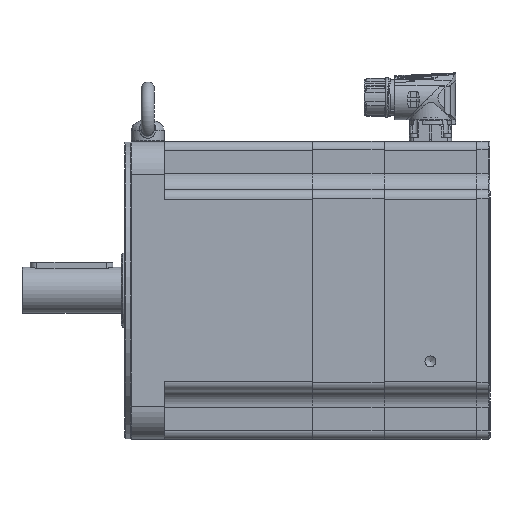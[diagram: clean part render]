
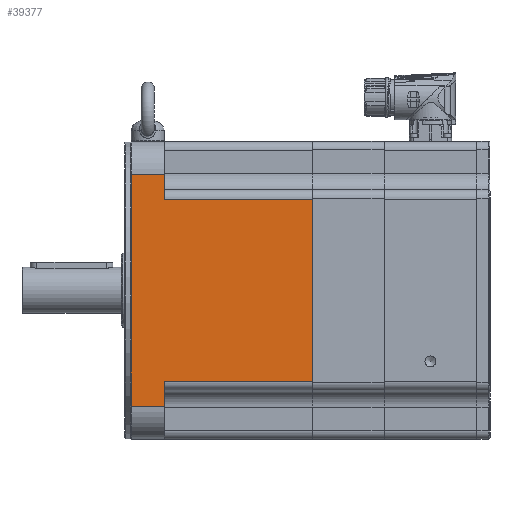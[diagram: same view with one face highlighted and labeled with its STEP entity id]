
A CAD part, left-side view. The second image highlights one B-rep face of the part: STEP entity #39377.
In plain terms, the highlighted planar face has unit normal (-1, 0, 0) as drawn and (1, 0, 0) by its records, which use the part's own axes.
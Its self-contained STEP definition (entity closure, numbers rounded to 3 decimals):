
#2944=PLANE('',#56737);
#13972=ORIENTED_EDGE('',*,*,#20682,.F.);
#13973=ORIENTED_EDGE('',*,*,#20750,.T.);
#13974=ORIENTED_EDGE('',*,*,#20718,.F.);
#13975=ORIENTED_EDGE('',*,*,#20751,.T.);
#13976=ORIENTED_EDGE('',*,*,#20752,.F.);
#13977=ORIENTED_EDGE('',*,*,#20753,.T.);
#13978=ORIENTED_EDGE('',*,*,#20738,.F.);
#13979=ORIENTED_EDGE('',*,*,#20754,.T.);
#20682=EDGE_CURVE('',#24970,#24971,#27868,.T.);
#20718=EDGE_CURVE('',#25006,#25007,#27882,.T.);
#20738=EDGE_CURVE('',#25026,#25027,#27889,.T.);
#20750=EDGE_CURVE('',#24970,#25007,#27897,.F.);
#20751=EDGE_CURVE('',#25006,#25034,#27898,.T.);
#20752=EDGE_CURVE('',#25035,#25034,#27899,.T.);
#20753=EDGE_CURVE('',#25035,#25027,#27900,.F.);
#20754=EDGE_CURVE('',#25026,#24971,#27901,.T.);
#24970=VERTEX_POINT('',#87859);
#24971=VERTEX_POINT('',#87861);
#25006=VERTEX_POINT('',#87939);
#25007=VERTEX_POINT('',#87941);
#25026=VERTEX_POINT('',#87986);
#25027=VERTEX_POINT('',#87987);
#25034=VERTEX_POINT('',#88011);
#25035=VERTEX_POINT('',#88013);
#27868=LINE('',#87860,#30355);
#27882=LINE('',#87940,#30369);
#27889=LINE('',#87985,#30376);
#27897=LINE('',#88009,#30384);
#27898=LINE('',#88010,#30385);
#27899=LINE('',#88012,#30386);
#27900=LINE('',#88014,#30387);
#27901=LINE('',#88015,#30388);
#30355=VECTOR('',#66335,1000.);
#30369=VECTOR('',#66409,1000.);
#30376=VECTOR('',#66454,1000.);
#30384=VECTOR('',#66478,1000.);
#30385=VECTOR('',#66479,1000.);
#30386=VECTOR('',#66480,1000.);
#30387=VECTOR('',#66481,1000.);
#30388=VECTOR('',#66482,1000.);
#33115=EDGE_LOOP('',(#13972,#13973,#13974,#13975,#13976,#13977,#13978,#13979));
#36195=FACE_BOUND('',#33115,.T.);
#39377=ADVANCED_FACE('',(#36195),#2944,.T.);
#56737=AXIS2_PLACEMENT_3D('',#88008,#66476,#66477);
#66335=DIRECTION('',(0.,0.,-1.));
#66409=DIRECTION('',(0.,0.,-1.));
#66454=DIRECTION('',(0.,0.,-1.));
#66476=DIRECTION('',(1.,0.,0.));
#66477=DIRECTION('',(0.,1.,0.));
#66478=DIRECTION('',(0.,1.,0.));
#66479=DIRECTION('',(0.,-1.,0.));
#66480=DIRECTION('',(0.,0.,1.));
#66481=DIRECTION('',(0.,-1.,0.));
#66482=DIRECTION('',(0.,1.,0.));
#87859=CARTESIAN_POINT('',(90.,110.8,55.2));
#87860=CARTESIAN_POINT('',(90.,110.8,-90.));
#87861=CARTESIAN_POINT('',(90.,110.8,-55.2));
#87939=CARTESIAN_POINT('',(90.,21.3,70.));
#87940=CARTESIAN_POINT('',(90.,21.3,-90.));
#87941=CARTESIAN_POINT('',(90.,21.3,55.2));
#87985=CARTESIAN_POINT('',(90.,21.3,-90.));
#87986=CARTESIAN_POINT('',(90.,21.3,-55.2));
#87987=CARTESIAN_POINT('',(90.,21.3,-70.));
#88008=CARTESIAN_POINT('',(90.,491.763,-90.));
#88009=CARTESIAN_POINT('',(90.,491.763,55.2));
#88010=CARTESIAN_POINT('',(90.,491.763,70.));
#88011=CARTESIAN_POINT('',(90.,1.3,70.));
#88012=CARTESIAN_POINT('',(90.,1.3,-90.));
#88013=CARTESIAN_POINT('',(90.,1.3,-70.));
#88014=CARTESIAN_POINT('',(90.,491.763,-70.));
#88015=CARTESIAN_POINT('',(90.,491.763,-55.2));
